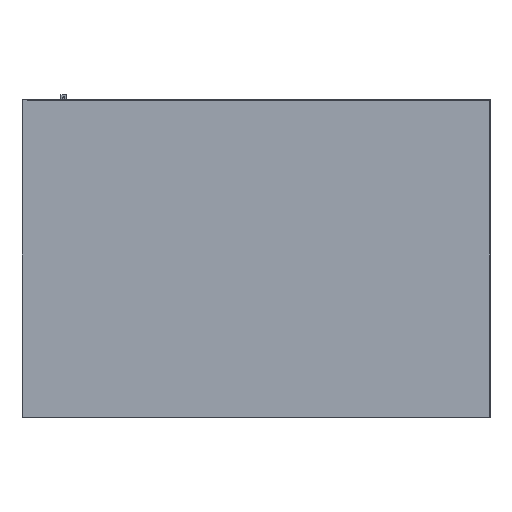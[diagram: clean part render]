
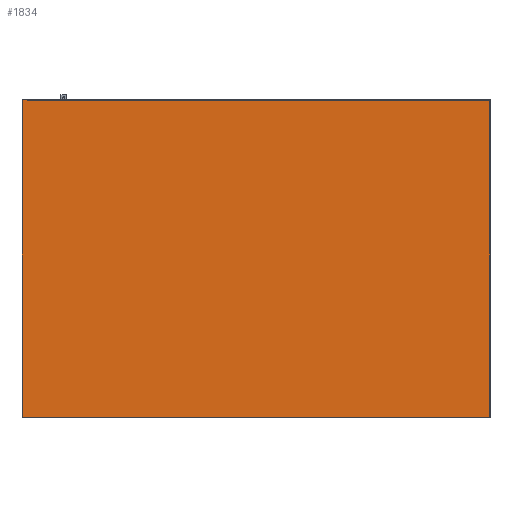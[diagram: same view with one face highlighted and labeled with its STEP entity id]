
A CAD part, left-side view. The second image highlights one B-rep face of the part: STEP entity #1834.
In plain terms, the highlighted planar face has unit normal (-1, 0, 0).
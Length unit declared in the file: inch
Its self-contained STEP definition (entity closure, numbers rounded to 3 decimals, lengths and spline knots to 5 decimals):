
#430=PLANE('',#2081);
#526=FACE_OUTER_BOUND('',#622,.T.);
#622=EDGE_LOOP('',(#1480,#1481,#1482,#1483));
#726=LINE('',#2730,#917);
#728=LINE('',#2734,#919);
#729=LINE('',#2736,#920);
#730=LINE('',#2737,#921);
#917=VECTOR('',#2246,0.3937);
#919=VECTOR('',#2250,0.3937);
#920=VECTOR('',#2251,0.3937);
#921=VECTOR('',#2252,0.3937);
#1114=VERTEX_POINT('',#2727);
#1115=VERTEX_POINT('',#2729);
#1116=VERTEX_POINT('',#2733);
#1117=VERTEX_POINT('',#2735);
#1255=EDGE_CURVE('',#1115,#1114,#726,.T.);
#1257=EDGE_CURVE('',#1116,#1115,#728,.T.);
#1258=EDGE_CURVE('',#1117,#1114,#729,.T.);
#1259=EDGE_CURVE('',#1116,#1117,#730,.T.);
#1480=ORIENTED_EDGE('',*,*,#1257,.T.);
#1481=ORIENTED_EDGE('',*,*,#1255,.T.);
#1482=ORIENTED_EDGE('',*,*,#1258,.F.);
#1483=ORIENTED_EDGE('',*,*,#1259,.F.);
#1834=ADVANCED_FACE('',(#526),#430,.T.);
#2081=AXIS2_PLACEMENT_3D('',#2732,#2248,#2249);
#2246=DIRECTION('',(0.,0.,1.));
#2248=DIRECTION('center_axis',(-1.,0.,0.));
#2249=DIRECTION('ref_axis',(0.,-1.,0.));
#2250=DIRECTION('',(0.,-1.,0.));
#2251=DIRECTION('',(0.,-1.,0.));
#2252=DIRECTION('',(0.,0.,1.));
#2727=CARTESIAN_POINT('',(0.,-25.875,23.75));
#2729=CARTESIAN_POINT('',(0.,-25.875,0.));
#2730=CARTESIAN_POINT('',(0.,-25.875,0.));
#2732=CARTESIAN_POINT('Origin',(0.,9.125,0.));
#2733=CARTESIAN_POINT('',(0.,9.125,0.));
#2734=CARTESIAN_POINT('',(0.,9.125,0.));
#2735=CARTESIAN_POINT('',(0.,9.125,23.75));
#2736=CARTESIAN_POINT('',(0.,9.125,23.75));
#2737=CARTESIAN_POINT('',(0.,9.125,0.));
